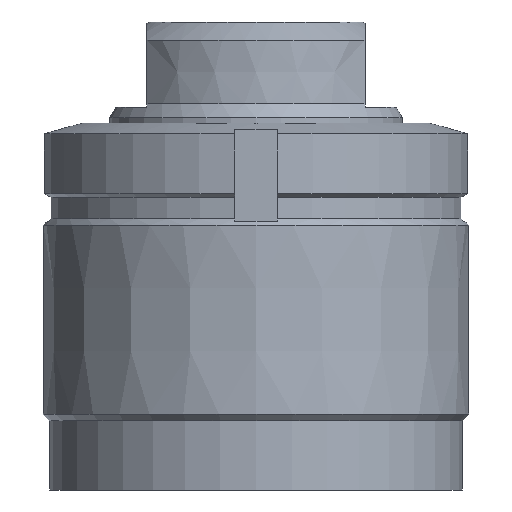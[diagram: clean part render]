
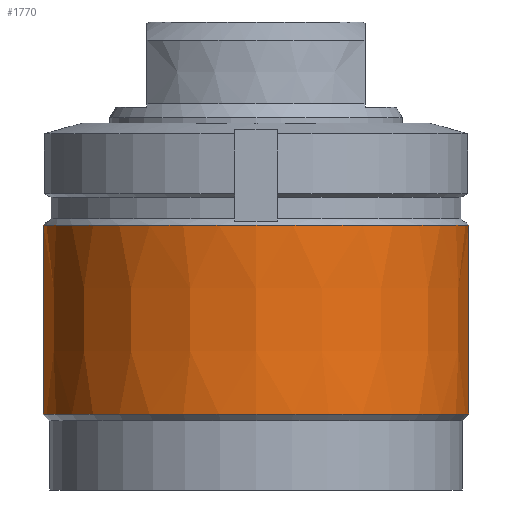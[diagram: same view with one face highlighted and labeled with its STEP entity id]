
A CAD part, front view. The second image highlights one B-rep face of the part: STEP entity #1770.
In plain terms, the highlighted conical face has half-angle 0 degrees and reference radius 40 mm.
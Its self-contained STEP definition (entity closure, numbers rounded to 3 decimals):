
#1707=CARTESIAN_POINT('',(-40.,0.0,-54.8));
#1708=VERTEX_POINT('',#1707);
#1716=CARTESIAN_POINT('',(40.,0.0,-54.8));
#1717=VERTEX_POINT('',#1716);
#1724=CARTESIAN_POINT('',(-0.0,0.0,-54.8));
#1725=DIRECTION('',(0.0,0.0,1.0));
#1726=DIRECTION('',(1.0,0.0,0.0));
#1727=AXIS2_PLACEMENT_3D('',#1724,#1725,#1726);
#1728=CIRCLE('',#1727,40.);
#1729=EDGE_CURVE('no 2866',#1708,#1717,#1728,.T.);
#1739=CARTESIAN_POINT('',(40.,0.0,-19.25));
#1740=VERTEX_POINT('',#1739);
#1741=CARTESIAN_POINT('',(40.,0.0,-19.25));
#1742=DIRECTION('',(0.,0.0,-1.0));
#1743=VECTOR('',#1742,1.0);
#1744=LINE('',#1741,#1743);
#1745=EDGE_CURVE('no 2876',#1740,#1717,#1744,.T.);
#1746=ORIENTED_EDGE('',*,*,#1745,.F.);
#1747=CARTESIAN_POINT('',(-40.,0.0,-19.25));
#1748=VERTEX_POINT('',#1747);
#1749=CARTESIAN_POINT('',(-0.0,0.0,-19.25));
#1750=DIRECTION('',(0.0,0.0,1.0));
#1751=DIRECTION('',(1.0,0.0,0.0));
#1752=AXIS2_PLACEMENT_3D('',#1749,#1750,#1751);
#1753=CIRCLE('',#1752,40.);
#1754=EDGE_CURVE('no 2882',#1748,#1740,#1753,.T.);
#1755=ORIENTED_EDGE('',*,*,#1754,.F.);
#1756=CARTESIAN_POINT('',(-40.,0.0,-19.25));
#1757=DIRECTION('',(0.,0.0,-1.0));
#1758=VECTOR('',#1757,1.0);
#1759=LINE('',#1756,#1758);
#1760=EDGE_CURVE('no 2886',#1748,#1708,#1759,.T.);
#1761=ORIENTED_EDGE('',*,*,#1760,.T.);
#1762=ORIENTED_EDGE('',*,*,#1729,.T.);
#1763=EDGE_LOOP('',(#1746,#1755,#1761,#1762));
#1764=FACE_OUTER_BOUND('',#1763,.T.);
#1765=CARTESIAN_POINT('',(-0.0,0.0,-54.8));
#1766=DIRECTION('',(0.0,0.0,-1.0));
#1767=DIRECTION('',(-0.0,1.0,0.0));
#1768=AXIS2_PLACEMENT_3D('',#1765,#1766,#1767);
#1769=CONICAL_SURFACE('',#1768,40.,0.);
#1770=ADVANCED_FACE('no 2869',(#1764),#1769,.T.);
